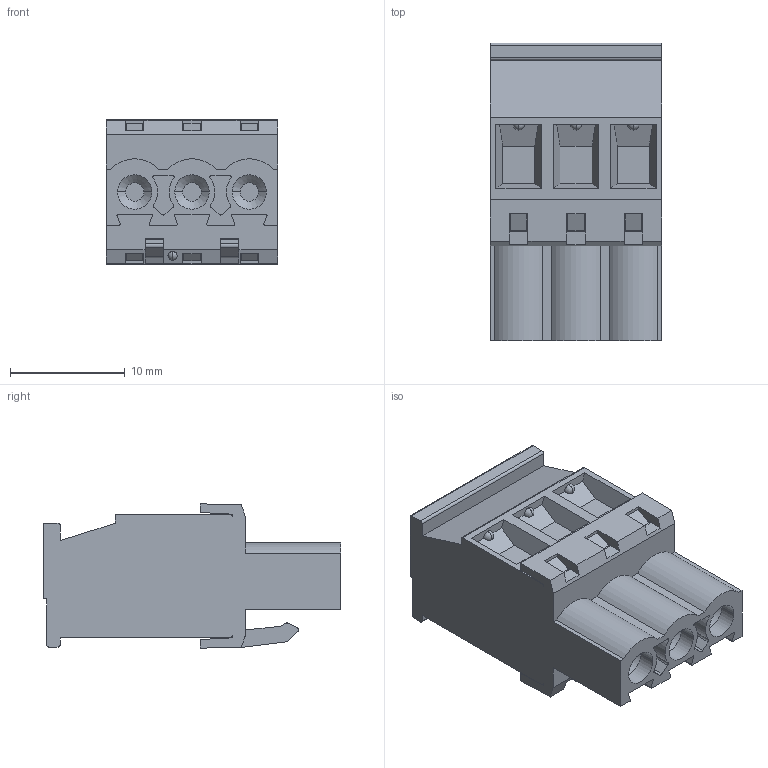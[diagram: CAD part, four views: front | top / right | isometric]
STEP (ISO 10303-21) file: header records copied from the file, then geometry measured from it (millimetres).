
FILE_DESCRIPTION((''),'2;1');
FILE_NAME('33','2019-04-10T',('zhenbing.lai'),(''),'CREO PARAMETRIC BY PTC INC, 2016260','CREO PARAMETRIC BY PTC INC, 2016260','');
FILE_SCHEMA(('CONFIG_CONTROL_DESIGN'));
Length unit declared in the file: millimetre
Products named in the file (1): 33
Bounding box: 15 x 26 x 12.59 mm (x, y, z)
Volume: 3251.5 mm3; surface area: 2315 mm2
Topology: 1 solids, 1 shells, 309 faces, 1026 edges, 693 vertices
Faces by surface type: plane 172, cylinder 84, cone 33, sphere 8, bspline 6, torus 6
Entity records: 14668 total; most frequent: CARTESIAN_POINT 5830, ORIENTED_EDGE 2036, DIRECTION 1664, EDGE_CURVE 1018, VERTEX_POINT 693, AXIS2_PLACEMENT_3D 561, VECTOR 542, LINE 542
